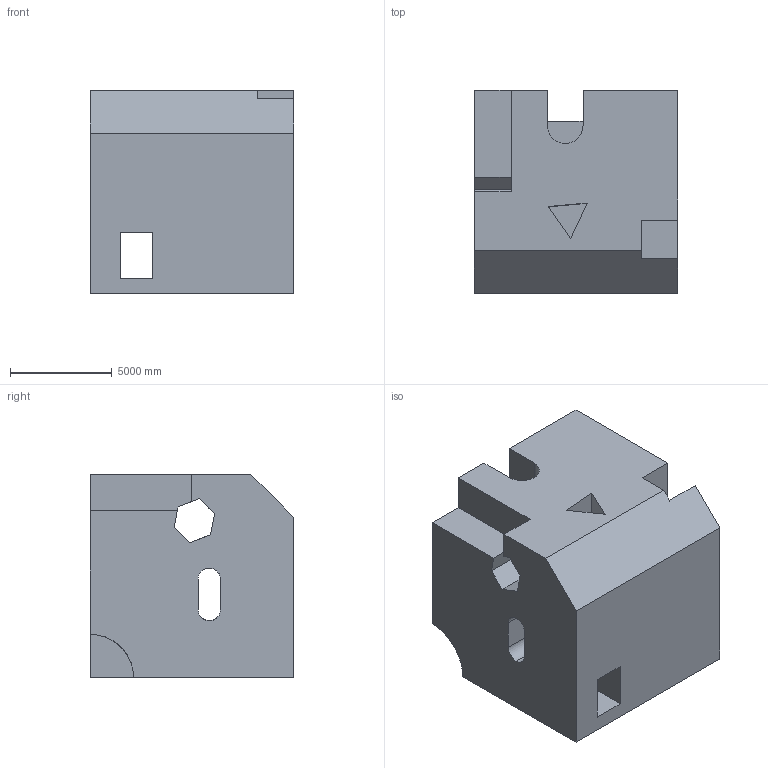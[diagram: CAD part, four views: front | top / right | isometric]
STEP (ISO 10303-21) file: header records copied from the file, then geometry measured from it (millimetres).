
FILE_DESCRIPTION (( 'STEP AP203' ), '1' );
FILE_NAME ('1803.STEP', '2022-08-19T13:01:49', ( 'user' ), ( '' ), 'SwSTEP 2.0', 'SolidWorks 2021', '' );
FILE_SCHEMA (( 'CONFIG_CONTROL_DESIGN' ));
Length unit declared in the file: centimetre
Products named in the file (1): 1803
Bounding box: 10000 x 10000 x 10000 mm (x, y, z)
Volume: 791560214232 mm3; surface area: 822427861.6 mm2
Topology: 1 solids, 1 shells, 46 faces, 153 edges, 102 vertices
Faces by surface type: plane 40, cylinder 6
Entity records: 1756 total; most frequent: CARTESIAN_POINT 326, ORIENTED_EDGE 306, DIRECTION 257, EDGE_CURVE 153, VECTOR 127, LINE 127, VERTEX_POINT 102, AXIS2_PLACEMENT_3D 65
